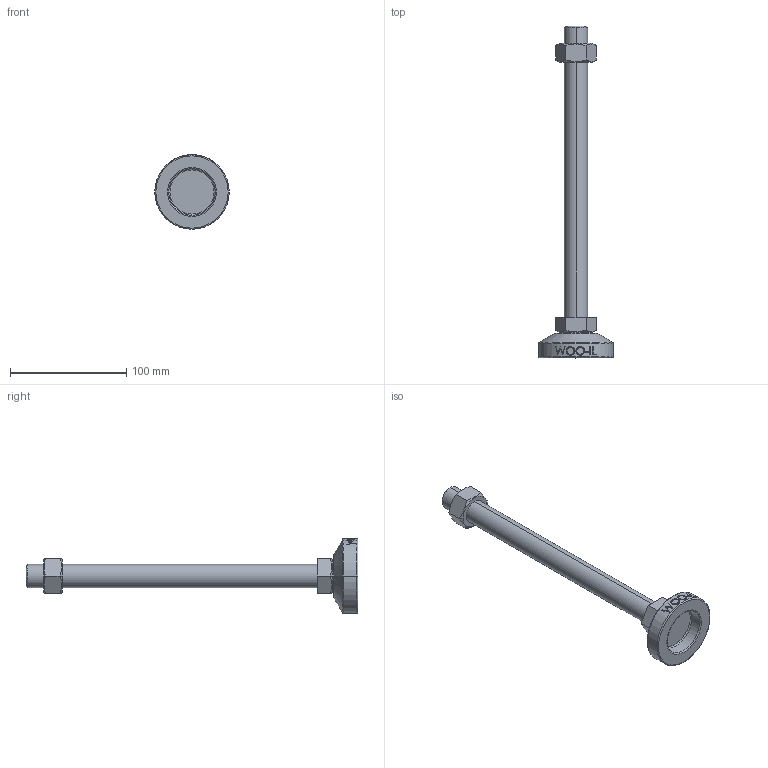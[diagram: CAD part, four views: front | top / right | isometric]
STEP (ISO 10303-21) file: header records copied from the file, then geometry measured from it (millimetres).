
FILE_DESCRIPTION (( 'STEP AP214' ), '1' );
FILE_NAME ('MFZ64-M20-250.step', '2021-01-15T07:07:25', ( '' ), ( '' ), 'SwSTEP 2.0', 'SolidWorks 2019', '' );
FILE_SCHEMA (( 'AUTOMOTIVE_DESIGN' ));
Length unit declared in the file: millimetre
Products named in the file (2): MFZ64-M20-250
Bounding box: 64 x 285 x 64 mm (x, y, z)
Volume: 140328.7 mm3; surface area: 32679.3 mm2
Topology: 3 solids, 3 shells, 106 faces, 243 edges, 154 vertices
Faces by surface type: plane 48, cylinder 18, bspline 16, cone 14, torus 10
Entity records: 4532 total; most frequent: CARTESIAN_POINT 2189, ORIENTED_EDGE 486, DIRECTION 439, EDGE_CURVE 243, AXIS2_PLACEMENT_3D 170, VERTEX_POINT 154, EDGE_LOOP 119, FACE_OUTER_BOUND 106
